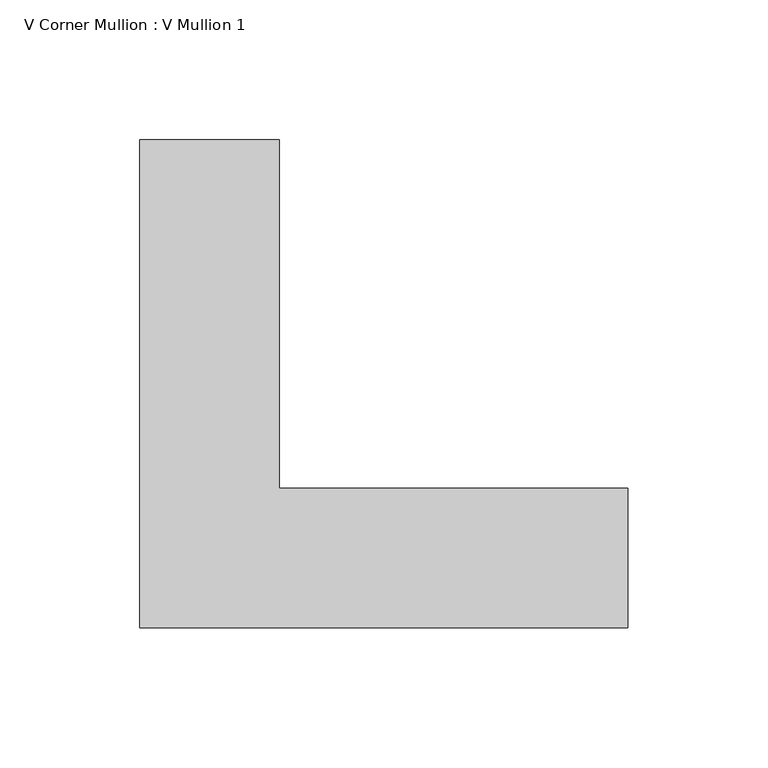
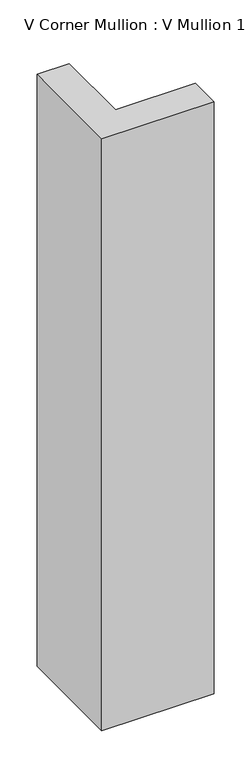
"""IFC4 building model written with IfcOpenShell, lengths in millimetres: member geometry, V Corner Mullion : V Mullion 1."""

from ifc_helpers import new_model, si_unit, frame, origin, place, context, project, spatial, polyline, outline, extrude, source, transform, mapped, element, save


def v_corner_mullion_v_mullion_1_86484a11(model_context):
    return source(origin(), model_context, "Body", "SweptSolid", [
        extrude(outline(polyline([(75.0, -100.0), (-100.0, -100.0), (-100.0, 75.0), (-50.0, 75.0), (-50.0, -50.0), (75.0, -50.0), (75.0, -100.0)])), frame((0.0, 0.0, -975.0), z_axis=(0.0, 0.0, 1.0), x_axis=(1.0, 0.0, 0.0)), (0.0, 0.0, 1.0), 975.0),
    ])


if __name__ == "__main__":
    model = new_model("IFC4")
    model_context = context("Model", 3, world=origin())
    ifc_project = project(units=[si_unit("LENGTHUNIT", "METRE", prefix="MILLI")], contexts=[model_context])
    site = spatial("IfcSite", under=ifc_project)
    building = spatial("IfcBuilding", under=site)
    placement = place(None, origin())
    v_corner_mullion_v_mullion_1_shape = v_corner_mullion_v_mullion_1_86484a11(model_context)
    element("IfcMember", 1, ObjectType="V Corner Mullion : V Mullion 1", at=placement, inside=building, context=model_context, shape_type="MappedRepresentation", body=[
        mapped(v_corner_mullion_v_mullion_1_shape, transform((0.0, 0.0, 0.0), x_axis=(1.0, 0.0, 0.0), y_axis=(0.0, 1.0, 0.0), z_axis=(0.0, 0.0, 1.0))),
    ])
    save(model, "model.ifc")
